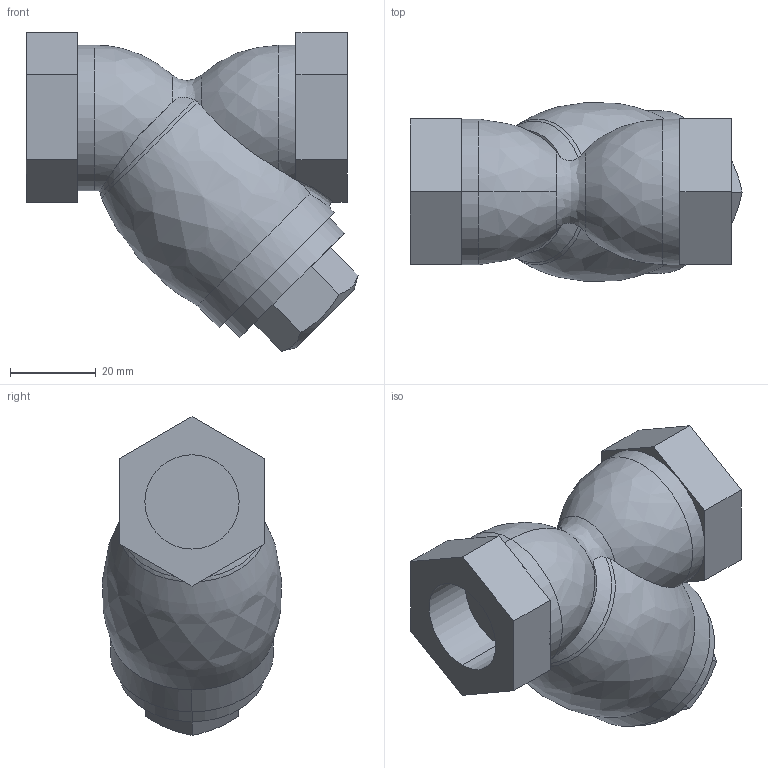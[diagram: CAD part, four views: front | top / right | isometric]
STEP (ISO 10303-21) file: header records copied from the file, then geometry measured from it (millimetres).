
FILE_DESCRIPTION( (''), '2;1');
FILE_NAME ('PC1276.2836.SY-5 15A 3D_7503.stp','2024-09-06T11:54:02',(''),(''),'spGate 19.8.4 (****-****-****-****)','','');
FILE_SCHEMA (('AUTOMOTIVE_DESIGN'));
Length unit declared in the file: millimetre
Bounding box: 77.48 x 41.84 x 74.4 mm (x, y, z)
Volume: 101630.5 mm3; surface area: 16906.6 mm2
Topology: 1 solids, 1 shells, 56 faces, 141 edges, 91 vertices
Faces by surface type: plane 34, bspline 11, cylinder 11
Entity records: 3184 total; most frequent: CARTESIAN_POINT 822, ORIENTED_EDGE 282, DIRECTION 220, COLOUR_RGB 198, PRESENTATION_STYLE_ASSIGNMENT 198, STYLED_ITEM 198, EDGE_CURVE 141, DRAUGHTING_PRE_DEFINED_CURVE_FONT 141
